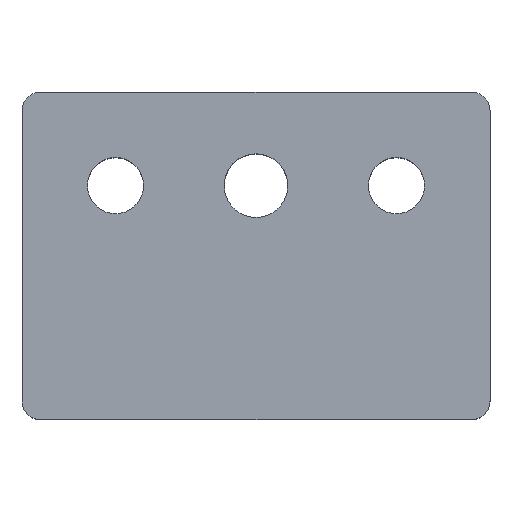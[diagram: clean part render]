
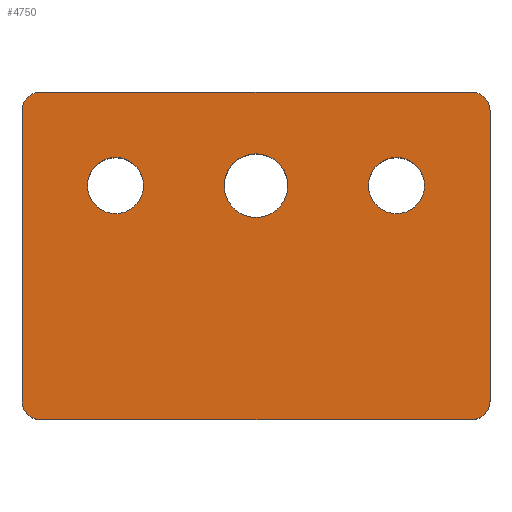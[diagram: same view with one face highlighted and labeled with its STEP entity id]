
A CAD part, top view. The second image highlights one B-rep face of the part: STEP entity #4750.
In plain terms, the highlighted planar face has unit normal (0, 0, 1).
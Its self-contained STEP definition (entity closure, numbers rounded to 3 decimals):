
#476 = LINE ( 'NONE', #33793, #14409 ) ;
#1180 = FACE_BOUND ( 'NONE', #33771, .T. ) ;
#1193 = CARTESIAN_POINT ( 'NONE',  ( 2., 2., 10. ) ) ;
#1222 = CIRCLE ( 'NONE', #33361, 3. ) ;
#1504 = DIRECTION ( 'NONE',  ( 1., 0., 0. ) ) ;
#1667 = EDGE_CURVE ( 'NONE', #14029, #12198, #5020, .T. ) ;
#2023 = CIRCLE ( 'NONE', #6351, 2. ) ;
#2038 = FACE_OUTER_BOUND ( 'NONE', #23298, .T. ) ;
#2313 = ORIENTED_EDGE ( 'NONE', *, *, #8646, .F. ) ;
#2354 = VERTEX_POINT ( 'NONE', #22438 ) ;
#2590 = EDGE_CURVE ( 'NONE', #30900, #17924, #31463, .T. ) ;
#3055 = CARTESIAN_POINT ( 'NONE',  ( 28.4, 25., 10. ) ) ;
#3750 = DIRECTION ( 'NONE',  ( 0., 0., 1. ) ) ;
#3849 = DIRECTION ( 'NONE',  ( 1., 0., 0. ) ) ;
#4204 = ORIENTED_EDGE ( 'NONE', *, *, #17653, .T. ) ;
#4401 = DIRECTION ( 'NONE',  ( 0., 0., 1. ) ) ;
#4503 = CARTESIAN_POINT ( 'NONE',  ( 37., 25., 10. ) ) ;
#4572 = AXIS2_PLACEMENT_3D ( 'NONE', #19389, #3750, #22026 ) ;
#4750 = ADVANCED_FACE ( 'NONE', ( #15151, #1180, #28972, #2038 ), #24792, .T. ) ;
#5020 = CIRCLE ( 'NONE', #29550, 3. ) ;
#5454 = CARTESIAN_POINT ( 'NONE',  ( 13., 25., 10. ) ) ;
#5531 = VERTEX_POINT ( 'NONE', #20015 ) ;
#6279 = ORIENTED_EDGE ( 'NONE', *, *, #10000, .T. ) ;
#6351 = AXIS2_PLACEMENT_3D ( 'NONE', #1193, #19470, #3849 ) ;
#6472 = DIRECTION ( 'NONE',  ( 1., 0., 0. ) ) ;
#7252 = CIRCLE ( 'NONE', #9671, 3. ) ;
#7269 = CIRCLE ( 'NONE', #33008, 2. ) ;
#7369 = CARTESIAN_POINT ( 'NONE',  ( 48., 33., 10. ) ) ;
#7570 = ORIENTED_EDGE ( 'NONE', *, *, #31753, .T. ) ;
#7745 = DIRECTION ( 'NONE',  ( -1., 0., 0. ) ) ;
#7909 = VERTEX_POINT ( 'NONE', #26826 ) ;
#8069 = DIRECTION ( 'NONE',  ( 0., 0., 1. ) ) ;
#8167 = VECTOR ( 'NONE', #6472, 1000. ) ;
#8634 = CARTESIAN_POINT ( 'NONE',  ( 50., 33., 10. ) ) ;
#8646 = EDGE_CURVE ( 'NONE', #32053, #5531, #23396, .T. ) ;
#8704 = CARTESIAN_POINT ( 'NONE',  ( 10., 25., 10. ) ) ;
#8798 = CARTESIAN_POINT ( 'NONE',  ( 40., 25., 10. ) ) ;
#8830 = EDGE_CURVE ( 'NONE', #32728, #12318, #476, .T. ) ;
#8847 = ORIENTED_EDGE ( 'NONE', *, *, #18279, .T. ) ;
#9288 = VECTOR ( 'NONE', #17832, 1000. ) ;
#9430 = CARTESIAN_POINT ( 'NONE',  ( 2., 0., 10. ) ) ;
#9550 = ORIENTED_EDGE ( 'NONE', *, *, #33576, .F. ) ;
#9671 = AXIS2_PLACEMENT_3D ( 'NONE', #8704, #26916, #11351 ) ;
#10000 = EDGE_CURVE ( 'NONE', #28336, #2354, #10129, .T. ) ;
#10002 = DIRECTION ( 'NONE',  ( 1., 0., 0. ) ) ;
#10129 = LINE ( 'NONE', #33416, #9288 ) ;
#10395 = ORIENTED_EDGE ( 'NONE', *, *, #28922, .F. ) ;
#10544 = AXIS2_PLACEMENT_3D ( 'NONE', #14554, #17172, #1504 ) ;
#10764 = ORIENTED_EDGE ( 'NONE', *, *, #2590, .F. ) ;
#11351 = DIRECTION ( 'NONE',  ( 1., 0., 0. ) ) ;
#11450 = DIRECTION ( 'NONE',  ( 1., 0., 0. ) ) ;
#12078 = DIRECTION ( 'NONE',  ( 0., 0., 1. ) ) ;
#12198 = VERTEX_POINT ( 'NONE', #5454 ) ;
#12318 = VERTEX_POINT ( 'NONE', #8634 ) ;
#12444 = CARTESIAN_POINT ( 'NONE',  ( 43., 25., 10. ) ) ;
#12734 = VERTEX_POINT ( 'NONE', #15283 ) ;
#12857 = AXIS2_PLACEMENT_3D ( 'NONE', #8798, #27009, #11450 ) ;
#13290 = DIRECTION ( 'NONE',  ( 0., 0., 1. ) ) ;
#13327 = CARTESIAN_POINT ( 'NONE',  ( 40., 25., 10. ) ) ;
#13853 = CARTESIAN_POINT ( 'NONE',  ( 48., 0., 10. ) ) ;
#14029 = VERTEX_POINT ( 'NONE', #19813 ) ;
#14409 = VECTOR ( 'NONE', #18206, 1000. ) ;
#14554 = CARTESIAN_POINT ( 'NONE',  ( 0., 0., 10. ) ) ;
#15136 = LINE ( 'NONE', #32448, #8167 ) ;
#15151 = FACE_BOUND ( 'NONE', #27743, .T. ) ;
#15283 = CARTESIAN_POINT ( 'NONE',  ( 2., 35., 10. ) ) ;
#15928 = LINE ( 'NONE', #30988, #22020 ) ;
#15956 = DIRECTION ( 'NONE',  ( 1., 0., 0. ) ) ;
#16476 = AXIS2_PLACEMENT_3D ( 'NONE', #7369, #25592, #10002 ) ;
#17172 = DIRECTION ( 'NONE',  ( 0., 0., 1. ) ) ;
#17653 = EDGE_CURVE ( 'NONE', #2354, #25685, #2023, .T. ) ;
#17683 = EDGE_CURVE ( 'NONE', #25685, #24687, #15136, .T. ) ;
#17832 = DIRECTION ( 'NONE',  ( 0., -1., 0. ) ) ;
#17840 = CARTESIAN_POINT ( 'NONE',  ( 50., 2., 10. ) ) ;
#17924 = VERTEX_POINT ( 'NONE', #12444 ) ;
#18206 = DIRECTION ( 'NONE',  ( 0., 1., 0. ) ) ;
#18279 = EDGE_CURVE ( 'NONE', #24687, #32728, #7269, .T. ) ;
#19389 = CARTESIAN_POINT ( 'NONE',  ( 25., 25., 10. ) ) ;
#19470 = DIRECTION ( 'NONE',  ( 0., 0., 1. ) ) ;
#19813 = CARTESIAN_POINT ( 'NONE',  ( 7., 25., 10. ) ) ;
#20015 = CARTESIAN_POINT ( 'NONE',  ( 21.6, 25., 10. ) ) ;
#20027 = CARTESIAN_POINT ( 'NONE',  ( 25., 25., 10. ) ) ;
#20614 = CIRCLE ( 'NONE', #4572, 3.4 ) ;
#20746 = AXIS2_PLACEMENT_3D ( 'NONE', #20027, #4401, #22651 ) ;
#22020 = VECTOR ( 'NONE', #7745, 1000. ) ;
#22026 = DIRECTION ( 'NONE',  ( 1., 0., 0. ) ) ;
#22438 = CARTESIAN_POINT ( 'NONE',  ( 0., 2., 10. ) ) ;
#22651 = DIRECTION ( 'NONE',  ( 1., 0., 0. ) ) ;
#23298 = EDGE_LOOP ( 'NONE', ( #24045, #30391, #7570, #24368, #6279, #4204, #27310, #8847 ) ) ;
#23396 = CIRCLE ( 'NONE', #20746, 3.4 ) ;
#23467 = EDGE_CURVE ( 'NONE', #5531, #32053, #20614, .T. ) ;
#23677 = CARTESIAN_POINT ( 'NONE',  ( 2., 33., 10. ) ) ;
#24045 = ORIENTED_EDGE ( 'NONE', *, *, #8830, .T. ) ;
#24368 = ORIENTED_EDGE ( 'NONE', *, *, #25489, .T. ) ;
#24446 = CIRCLE ( 'NONE', #30168, 2. ) ;
#24687 = VERTEX_POINT ( 'NONE', #13853 ) ;
#24792 = PLANE ( 'NONE',  #10544 ) ;
#25489 = EDGE_CURVE ( 'NONE', #12734, #28336, #24446, .T. ) ;
#25592 = DIRECTION ( 'NONE',  ( 0., 0., 1. ) ) ;
#25685 = VERTEX_POINT ( 'NONE', #9430 ) ;
#26280 = DIRECTION ( 'NONE',  ( 1., 0., 0. ) ) ;
#26826 = CARTESIAN_POINT ( 'NONE',  ( 48., 35., 10. ) ) ;
#26916 = DIRECTION ( 'NONE',  ( 0., 0., 1. ) ) ;
#27009 = DIRECTION ( 'NONE',  ( 0., 0., 1. ) ) ;
#27310 = ORIENTED_EDGE ( 'NONE', *, *, #17683, .T. ) ;
#27647 = CARTESIAN_POINT ( 'NONE',  ( 48., 2., 10. ) ) ;
#27743 = EDGE_LOOP ( 'NONE', ( #2313, #32892 ) ) ;
#28336 = VERTEX_POINT ( 'NONE', #31217 ) ;
#28876 = CARTESIAN_POINT ( 'NONE',  ( 10., 25., 10. ) ) ;
#28922 = EDGE_CURVE ( 'NONE', #12198, #14029, #7252, .T. ) ;
#28972 = FACE_BOUND ( 'NONE', #32210, .T. ) ;
#29550 = AXIS2_PLACEMENT_3D ( 'NONE', #28876, #13290, #31491 ) ;
#29805 = EDGE_CURVE ( 'NONE', #12318, #7909, #31602, .T. ) ;
#30168 = AXIS2_PLACEMENT_3D ( 'NONE', #23677, #8069, #26280 ) ;
#30268 = DIRECTION ( 'NONE',  ( 1., 0., 0. ) ) ;
#30391 = ORIENTED_EDGE ( 'NONE', *, *, #29805, .T. ) ;
#30900 = VERTEX_POINT ( 'NONE', #4503 ) ;
#30988 = CARTESIAN_POINT ( 'NONE',  ( 50., 35., 10. ) ) ;
#31217 = CARTESIAN_POINT ( 'NONE',  ( 0., 33., 10. ) ) ;
#31316 = ORIENTED_EDGE ( 'NONE', *, *, #1667, .F. ) ;
#31463 = CIRCLE ( 'NONE', #12857, 3. ) ;
#31491 = DIRECTION ( 'NONE',  ( 1., 0., 0. ) ) ;
#31520 = DIRECTION ( 'NONE',  ( 0., 0., 1. ) ) ;
#31602 = CIRCLE ( 'NONE', #16476, 2. ) ;
#31753 = EDGE_CURVE ( 'NONE', #7909, #12734, #15928, .T. ) ;
#32053 = VERTEX_POINT ( 'NONE', #3055 ) ;
#32210 = EDGE_LOOP ( 'NONE', ( #9550, #10764 ) ) ;
#32448 = CARTESIAN_POINT ( 'NONE',  ( 0., 0., 10. ) ) ;
#32728 = VERTEX_POINT ( 'NONE', #17840 ) ;
#32892 = ORIENTED_EDGE ( 'NONE', *, *, #23467, .F. ) ;
#33008 = AXIS2_PLACEMENT_3D ( 'NONE', #27647, #12078, #30268 ) ;
#33361 = AXIS2_PLACEMENT_3D ( 'NONE', #13327, #31520, #15956 ) ;
#33416 = CARTESIAN_POINT ( 'NONE',  ( 0., 35., 10. ) ) ;
#33576 = EDGE_CURVE ( 'NONE', #17924, #30900, #1222, .T. ) ;
#33771 = EDGE_LOOP ( 'NONE', ( #10395, #31316 ) ) ;
#33793 = CARTESIAN_POINT ( 'NONE',  ( 50., 0., 10. ) ) ;
